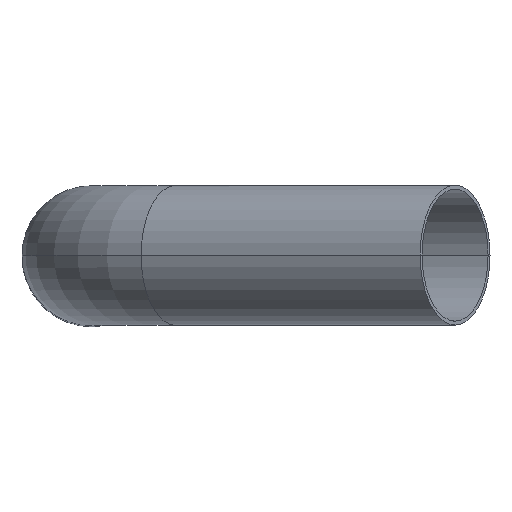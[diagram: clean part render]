
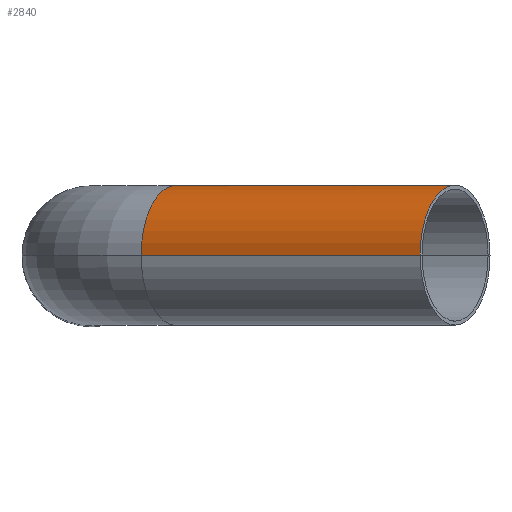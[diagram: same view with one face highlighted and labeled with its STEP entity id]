
A CAD part, top view. The second image highlights one B-rep face of the part: STEP entity #2840.
In plain terms, the highlighted cylindrical face has radius 27 mm (diameter 54 mm), a partial arc.
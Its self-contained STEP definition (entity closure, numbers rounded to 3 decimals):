
#1880=CARTESIAN_POINT('',(96.717,48.566,301.381));
#1890=VERTEX_POINT('',#1880);
#1980=CARTESIAN_POINT('',(69.717,48.566,348.147));
#1990=VERTEX_POINT('',#1980);
#2020=CARTESIAN_POINT('',(83.217,48.566,324.764));
#2030=DIRECTION('',(0.866,0.,0.5));
#2040=DIRECTION('',(0.5,0.,-0.866));
#2050=AXIS2_PLACEMENT_3D('',#2020,#2030,#2040);
#2060=CIRCLE('',#2050,27.);
#2140=EDGE_CURVE('',#1890,#1990,#2060,.T.);
#2400=CARTESIAN_POINT('',(191.013,48.566,387.));
#2410=DIRECTION('',(0.866,0.,0.5));
#2420=DIRECTION('',(0.5,0.,-0.866));
#2430=AXIS2_PLACEMENT_3D('',#2400,#2410,#2420);
#2440=CIRCLE('',#2430,27.);
#2450=CARTESIAN_POINT('',(204.513,48.566,363.617));
#2460=VERTEX_POINT('',#2450);
#2470=CARTESIAN_POINT('',(177.513,48.566,410.383));
#2480=VERTEX_POINT('',#2470);
#2490=EDGE_CURVE('',#2460,#2480,#2440,.T.);
#2560=CARTESIAN_POINT('',(83.217,48.566,324.764));
#2570=DIRECTION('',(0.866,0.,0.5));
#2580=DIRECTION('',(0.5,0.,-0.866));
#2590=AXIS2_PLACEMENT_3D('',#2560,#2570,#2580);
#2600=CYLINDRICAL_SURFACE('',#2590,27.);
#2610=CARTESIAN_POINT('',(96.717,48.566,301.381));
#2620=DIRECTION('',(0.866,0.,0.5));
#2630=VECTOR('',#2620,1.);
#2640=LINE('',#2610,#2630);
#2650=EDGE_CURVE('',#1890,#2460,#2640,.T.);
#2680=CARTESIAN_POINT('',(69.717,48.566,348.147));
#2690=DIRECTION('',(0.866,0.,0.5));
#2700=VECTOR('',#2690,1.);
#2710=LINE('',#2680,#2700);
#2720=EDGE_CURVE('',#1990,#2480,#2710,.T.);
#2780=ORIENTED_EDGE('',*,*,#2490,.F.);
#2790=ORIENTED_EDGE('',*,*,#2720,.T.);
#2800=ORIENTED_EDGE('',*,*,#2140,.T.);
#2810=ORIENTED_EDGE('',*,*,#2650,.F.);
#2820=EDGE_LOOP('',(#2810,#2800,#2790,#2780));
#2830=FACE_OUTER_BOUND('',#2820,.T.);
#2840=ADVANCED_FACE('',(#2830),#2600,.T.);
